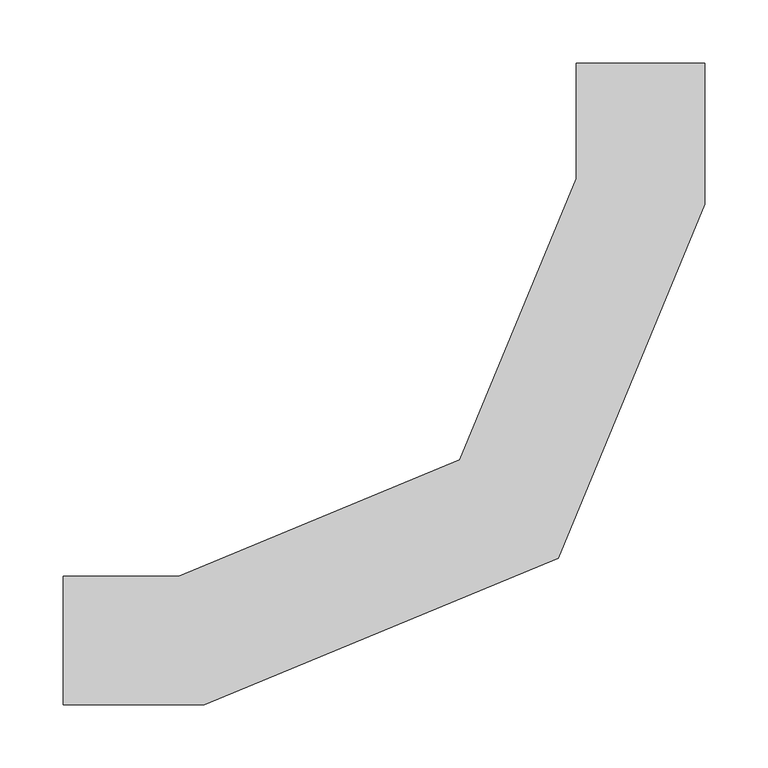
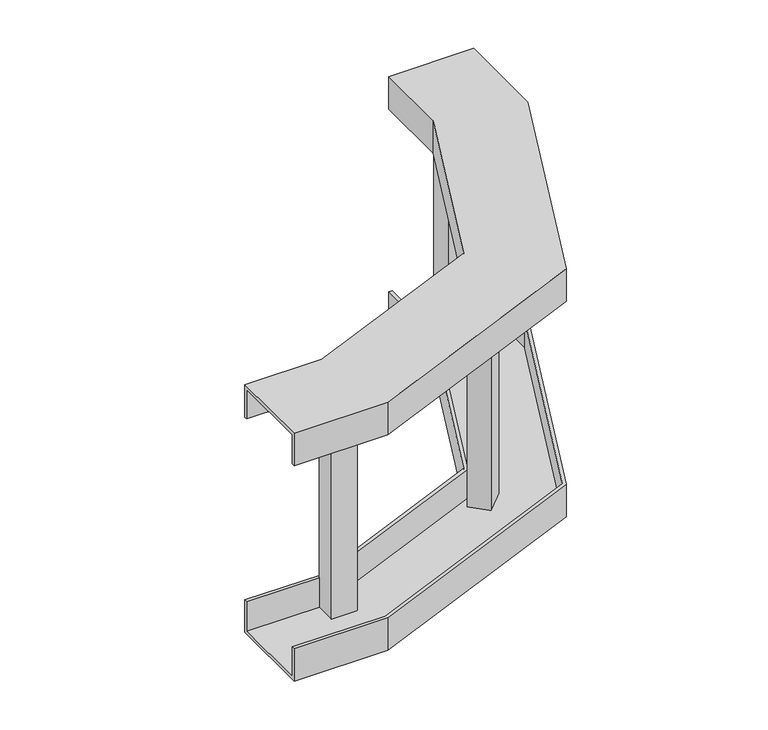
"""IFC4 building model written with IfcOpenShell, lengths in millimetres: cable carrier fitting geometry, CXEFV_Vertical_Outside_Bend-Fibertrav : Fibertrav CXEFV-12."""

import ifcopenshell
import ifcopenshell.guid

model = None  # the IFC model being written
_history = None  # IfcOwnerHistory: only IFC2X3 demands one
_inside = {}  # id of a spatial element -> (the spatial element, [elements in it])
_under = {}  # id of a project, library or spatial element -> (it, [spatial elements below it])
_declared = {}  # id of a project -> (the project, [libraries it declares])
_typed = {}  # id of a type object -> (the type object, [elements of that type])
_made_of = {}  # id of a material, layer set ... -> (it, [elements and type objects made of it])


def new_model(schema):
    """Start an empty IFC model of exactly this schema.

    Asked for "IFC4X3", IfcOpenShell would pick the latest addendum, in which some entities
    have other attributes; the version numbers below select the first issue.
    IFC2X3 requires an IfcOwnerHistory on every rooted entity: one is made here for all.
    """
    global model, _history
    if schema == "IFC4X3":
        model = ifcopenshell.file(schema_version=(4, 3, 0, 0))
    else:
        model = ifcopenshell.file(schema=schema)
    _inside.clear()
    _under.clear()
    _declared.clear()
    _typed.clear()
    _made_of.clear()
    _history = None
    if model.schema == "IFC2X3":
        org = make("IfcOrganization", Name="unknown")
        user = make(
            "IfcPersonAndOrganization",
            ThePerson=make("IfcPerson", FamilyName="unknown"),
            TheOrganization=org,
        )
        app = make(
            "IfcApplication",
            ApplicationDeveloper=org,
            Version="unknown",
            ApplicationFullName="unknown",
            ApplicationIdentifier="unknown",
        )
        _history = make(
            "IfcOwnerHistory",
            OwningUser=user,
            OwningApplication=app,
            ChangeAction="ADDED",
            CreationDate=0,
        )
    return model


def make(cls, **values):
    """One entity of the class cls with the attributes given. An attribute that is None is left unset."""
    return model.create_entity(
        cls, **{name: value for name, value in values.items() if value is not None}
    )


def rooted(cls, **values):
    """An entity with a GlobalId (a new one), such as an element, a storey or a relation."""
    return make(cls, GlobalId=ifcopenshell.guid.new(), OwnerHistory=_history, **values)


def si_unit(unit_type, name, prefix=None):
    """IfcSIUnit, for example si_unit("LENGTHUNIT", "METRE", prefix="MILLI")."""
    return make("IfcSIUnit", UnitType=unit_type, Prefix=prefix, Name=name)


def assignment(units):
    """IfcUnitAssignment: the units of a project."""
    return None if units is None else make("IfcUnitAssignment", Units=units)


def point(xyz):
    """IfcCartesianPoint."""
    return None if xyz is None else make("IfcCartesianPoint", Coordinates=xyz)


def direction(xyz):
    """IfcDirection."""
    return None if xyz is None else make("IfcDirection", DirectionRatios=xyz)


def frame(location, z_axis=None, x_axis=None):
    """IfcAxis2Placement3D, a coordinate frame: its origin and axes. An axis left out is left unset."""
    return make(
        "IfcAxis2Placement3D",
        Location=point(location),
        Axis=direction(z_axis),
        RefDirection=direction(x_axis),
    )


def origin():
    """The frame at (0, 0, 0) with its axes left unset."""
    return frame((0.0, 0.0, 0.0))


def place(relative_to, where):
    """IfcLocalPlacement: puts the frame where relative to a parent placement (None: the world)."""
    return make(
        "IfcLocalPlacement", PlacementRelTo=relative_to, RelativePlacement=where
    )


def context(
    kind, dimensions, precision=None, world=None, true_north=None, identifier=None
):
    """IfcGeometricRepresentationContext, for example the 3D "Model" context."""
    return make(
        "IfcGeometricRepresentationContext",
        ContextIdentifier=identifier,
        ContextType=kind,
        CoordinateSpaceDimension=dimensions,
        Precision=precision,
        WorldCoordinateSystem=world,
        TrueNorth=true_north,
    )


def project(units=None, contexts=None):
    """IfcProject with its units and contexts."""
    return rooted(
        "IfcProject",
        Name="project",
        RepresentationContexts=contexts,
        UnitsInContext=assignment(units),
    )


def spatial(cls, under=None, at=None, **own):
    """A site, building, storey or space (cls), placed at a placement, below another one or the project."""
    s = rooted(cls, ObjectPlacement=at, **own)
    if under is not None:
        _under.setdefault(under.id(), (under, []))[1].append(s)
    return s


def polyline(points):
    """IfcPolyline through the points."""
    return make("IfcPolyline", Points=[point(p) for p in points])


def outline(outer, holes=None, kind="AREA"):
    """IfcArbitraryClosedProfileDef: a profile drawn as a closed curve; with holes, ...WithVoids."""
    if holes is None:
        return make("IfcArbitraryClosedProfileDef", ProfileType=kind, OuterCurve=outer)
    return make(
        "IfcArbitraryProfileDefWithVoids",
        ProfileType=kind,
        OuterCurve=outer,
        InnerCurves=holes,
    )


def extrude(swept, where, along, depth):
    """IfcExtrudedAreaSolid: the profile swept, set in the frame where, extruded along a direction by depth."""
    return make(
        "IfcExtrudedAreaSolid",
        SweptArea=swept,
        Position=where,
        ExtrudedDirection=direction(along),
        Depth=depth,
    )


def faces_of(points, faces, orient=None, outer=None):
    """IfcFace entities. A face is a list of loops; a loop is a list of indices into points, from 0.

    orient and outer hold one flag for each loop. By default every Orientation is true, the
    first loop of a face is its IfcFaceOuterBound and the others are IfcFaceBound.
    """
    made = []
    for i, loops in enumerate(faces):
        bounds = []
        for j, loop in enumerate(loops):
            is_outer = j == 0 if outer is None else outer[i][j]
            bounds.append(
                make(
                    "IfcFaceOuterBound" if is_outer else "IfcFaceBound",
                    Bound=make("IfcPolyLoop", Polygon=[points[k] for k in loop]),
                    Orientation=True if orient is None else orient[i][j],
                )
            )
        made.append(make("IfcFace", Bounds=bounds))
    return made


def faceted_brep(points, faces, orient=None, outer=None, voids=None):
    """IfcFacetedBrep: a solid bounded by flat faces; with voids (closed shells), ...WithVoids."""
    shared = [point(p) for p in points]
    hull = make("IfcClosedShell", CfsFaces=faces_of(shared, faces, orient, outer))
    if voids is None:
        return make("IfcFacetedBrep", Outer=hull)
    return make(
        "IfcFacetedBrepWithVoids",
        Outer=hull,
        Voids=[
            make(cls, CfsFaces=faces_of(shared, fs, o, b)) for cls, fs, o, b in voids
        ],
    )


def shape(context_of_items, identifier, shape_type, items):
    """IfcShapeRepresentation: the items that make up one representation, for example the "Body"."""
    return make(
        "IfcShapeRepresentation",
        ContextOfItems=context_of_items,
        RepresentationIdentifier=identifier,
        RepresentationType=shape_type,
        Items=items,
    )


def source(mapping_origin, context_of_items, identifier, shape_type, items):
    """IfcRepresentationMap: a shape defined once, which mapped items show again and again."""
    return make(
        "IfcRepresentationMap",
        MappingOrigin=mapping_origin,
        MappedRepresentation=shape(context_of_items, identifier, shape_type, items),
    )


def transform(
    local_origin,
    x_axis=None,
    y_axis=None,
    z_axis=None,
    scale=None,
    scale2=None,
    scale3=None,
    uniform=True,
):
    """IfcCartesianTransformationOperator3D, or its non-uniform kind. x_axis, y_axis, z_axis: its Axis1, 2, 3."""
    if uniform:
        return make(
            "IfcCartesianTransformationOperator3D",
            Axis1=direction(x_axis),
            Axis2=direction(y_axis),
            LocalOrigin=point(local_origin),
            Scale=scale,
            Axis3=direction(z_axis),
        )
    return make(
        "IfcCartesianTransformationOperator3DnonUniform",
        Axis1=direction(x_axis),
        Axis2=direction(y_axis),
        LocalOrigin=point(local_origin),
        Scale=scale,
        Axis3=direction(z_axis),
        Scale2=scale2,
        Scale3=scale3,
    )


def mapped(mapping_source, mapping_target):
    """IfcMappedItem: shows the shape of a source again, moved by a transform."""
    return make(
        "IfcMappedItem", MappingSource=mapping_source, MappingTarget=mapping_target
    )


def made_of(thing, what):
    """Note that an element or type object is made of a material, layer set ...; save() writes the relation."""
    if what is not None:
        _made_of.setdefault(what.id(), (what, []))[1].append(thing)
    return thing


def element(
    cls,
    number,
    at=None,
    inside=None,
    cuts=None,
    type_object=None,
    material=None,
    context=None,
    identifier="Body",
    shape_type=None,
    held_by="IfcProductDefinitionShape",
    body=None,
    shapes=None,
    **own,
):
    """One element of the class cls, such as IfcWall. Its Tag is "e" and its number.

    at: its placement. inside: the storey or other place that contains it. cuts: it is an
    opening in that element (IfcRelVoidsElement). A single representation is given by context,
    identifier, shape_type and body (its items); several are given by shapes. held_by: the class
    of the entity that holds the representations. save() writes the other relations.
    """
    e = rooted(cls, Tag="e%d" % number, ObjectPlacement=at, **own)
    if body is not None:
        shapes = [shape(context, identifier, shape_type, body)]
    if shapes is not None:
        e.Representation = make(held_by, Representations=shapes)
    if inside is not None:
        _inside.setdefault(inside.id(), (inside, []))[1].append(e)
    if cuts is not None:
        rooted(
            "IfcRelVoidsElement", RelatingBuildingElement=cuts, RelatedOpeningElement=e
        )
    if type_object is not None:
        _typed.setdefault(type_object.id(), (type_object, []))[1].append(e)
    return made_of(e, material)


def aggregate(whole, parts):
    """IfcRelAggregates: a whole, such as a stair, and the parts it consists of."""
    return rooted("IfcRelAggregates", RelatingObject=whole, RelatedObjects=parts)


def save(model, path):
    """Write the relations noted so far, then the file.

    IfcRelAggregates (storeys below a building ...), IfcRelContainedInSpatialStructure (elements
    in a storey), IfcRelDefinesByType, IfcRelAssociatesMaterial and IfcRelDeclares: one each for
    every whole, place, type object, material and project.
    """
    for whole, parts in _under.values():
        aggregate(whole, parts)
    for where, things in _inside.values():
        rooted(
            "IfcRelContainedInSpatialStructure",
            RelatedElements=things,
            RelatingStructure=where,
        )
    for kind, things in _typed.values():
        rooted("IfcRelDefinesByType", RelatedObjects=things, RelatingType=kind)
    for what, things in _made_of.values():
        rooted("IfcRelAssociatesMaterial", RelatedObjects=things, RelatingMaterial=what)
    for by, libraries in _declared.values():
        rooted("IfcRelDeclares", RelatingContext=by, RelatedDefinitions=libraries)
    model.write(path)


def cable_carrier_fitting_1d535282(model_context):
    return source(origin(), model_context, "Body", "SolidModel", [
        faceted_brep([(-457.2, 50.8, 156.4), (-457.2, 50.8, 115.4), (-457.2, 46.8, 115.4), (-457.2, 46.8, 152.4), (-457.2, -46.8, 152.4), (-457.2, -46.8, 115.4), (-457.2, -50.8, 115.4), (-457.2, -50.8, 156.4), (-50.8, 457.2, 156.4), (50.8, 457.2, 156.4), (50.8, 457.2, 115.4), (46.8, 457.2, 115.4), (46.8, 457.2, 152.4), (-46.8, 457.2, 152.4), (-46.8, 457.2, 115.4), (-50.8, 457.2, 115.4), (-345.4952517, -50.8, 156.4), (-65.2721919, 65.2721919, 156.4), (50.8, 345.4952517, 156.4), (-50.8, 365.7047483, 156.4), (-143.0334653, 143.0334653, 156.4), (-365.7047483, 50.8, 156.4), (-365.7047483, 50.8, 115.4), (-143.0334653, 143.0334653, 115.4), (-50.8, 365.7047483, 115.4), (-46.8, 364.9090988, 115.4), (-139.9719979, 139.9719979, 115.4), (-364.9090988, 46.8, 115.4), (-364.9090988, 46.8, 152.4), (-139.9719979, 139.9719979, 152.4), (-46.8, 364.9090988, 152.4), (46.8, 346.2909012, 152.4), (-68.3336593, 68.3336593, 152.4), (-346.2909012, -46.8, 152.4), (-346.2909012, -46.8, 115.4), (-68.3336593, 68.3336593, 115.4), (46.8, 346.2909012, 115.4), (50.8, 345.4952517, 115.4), (-65.2721919, 65.2721919, 115.4), (-345.4952517, -50.8, 115.4)], [[[0, 1, 2, 3, 4, 5, 6, 7]], [[8, 9, 10, 11, 12, 13, 14, 15]], [[0, 7, 16, 17, 18, 9, 8, 19, 20, 21]], [[1, 0, 21, 22]], [[2, 1, 22, 23, 24, 15, 14, 25, 26, 27]], [[3, 2, 27, 28]], [[4, 3, 28, 29, 30, 13, 12, 31, 32, 33]], [[5, 4, 33, 34]], [[6, 5, 34, 35, 36, 11, 10, 37, 38, 39]], [[7, 6, 39, 16]], [[24, 19, 8, 15]], [[30, 25, 14, 13]], [[36, 31, 12, 11]], [[18, 37, 10, 9]], [[22, 21, 20, 23]], [[28, 27, 26, 29]], [[34, 33, 32, 35]], [[16, 39, 38, 17]], [[23, 20, 19, 24]], [[29, 26, 25, 30]], [[35, 32, 31, 36]], [[17, 38, 37, 18]]]),
        faceted_brep([(-457.2, 50.8, -156.4), (-457.2, -50.8, -156.4), (-457.2, -50.8, -115.4), (-457.2, -46.8, -115.4), (-457.2, -46.8, -152.4), (-457.2, 46.8, -152.4), (-457.2, 46.8, -115.4), (-457.2, 50.8, -115.4), (-50.8, 457.2, -156.4), (-50.8, 457.2, -115.4), (-46.8, 457.2, -115.4), (-46.8, 457.2, -152.4), (46.8, 457.2, -152.4), (46.8, 457.2, -115.4), (50.8, 457.2, -115.4), (50.8, 457.2, -156.4), (-345.4952517, -50.8, -156.4), (-345.4952517, -50.8, -115.4), (-65.2721919, 65.2721919, -115.4), (50.8, 345.4952517, -115.4), (46.8, 346.2909012, -115.4), (-68.3336593, 68.3336593, -115.4), (-346.2909012, -46.8, -115.4), (-346.2909012, -46.8, -152.4), (-68.3336593, 68.3336593, -152.4), (46.8, 346.2909012, -152.4), (-46.8, 364.9090988, -152.4), (-139.9719979, 139.9719979, -152.4), (-364.9090988, 46.8, -152.4), (-364.9090988, 46.8, -115.4), (-139.9719979, 139.9719979, -115.4), (-46.8, 364.9090988, -115.4), (-50.8, 365.7047483, -115.4), (-143.0334653, 143.0334653, -115.4), (-365.7047483, 50.8, -115.4), (-365.7047483, 50.8, -156.4), (-143.0334653, 143.0334653, -156.4), (-50.8, 365.7047483, -156.4), (50.8, 345.4952517, -156.4), (-65.2721919, 65.2721919, -156.4)], [[[0, 1, 2, 3, 4, 5, 6, 7]], [[8, 9, 10, 11, 12, 13, 14, 15]], [[2, 1, 16, 17]], [[3, 2, 17, 18, 19, 14, 13, 20, 21, 22]], [[4, 3, 22, 23]], [[5, 4, 23, 24, 25, 12, 11, 26, 27, 28]], [[6, 5, 28, 29]], [[7, 6, 29, 30, 31, 10, 9, 32, 33, 34]], [[0, 7, 34, 35]], [[1, 0, 35, 36, 37, 8, 15, 38, 39, 16]], [[19, 38, 15, 14]], [[25, 20, 13, 12]], [[31, 26, 11, 10]], [[37, 32, 9, 8]], [[17, 16, 39, 18]], [[23, 22, 21, 24]], [[29, 28, 27, 30]], [[35, 34, 33, 36]], [[18, 39, 38, 19]], [[24, 21, 20, 25]], [[30, 27, 26, 31]], [[36, 33, 32, 37]]]),
        extrude(outline(polyline([(-46.8, 370.85), (-21.4, 370.85), (-21.4, 340.35), (-46.8, 340.35), (-46.8, 370.85)])), frame((0.0, 0.0, -152.4), z_axis=(0.0, 0.0, 1.0), x_axis=(1.0, 0.0, 0.0)), (0.0, 0.0, 1.0), 304.8),
        extrude(outline(polyline([(-126.4620476, 148.0288044), (-108.5015353, 130.0682921), (-130.0682921, 108.5015353), (-148.0288044, 126.4620476), (-126.4620476, 148.0288044)])), frame((0.0, 0.0, -152.4), z_axis=(0.0, 0.0, 1.0), x_axis=(1.0, 0.0, 0.0)), (0.0, 0.0, 1.0), 304.8),
        extrude(outline(polyline([(-370.85, 21.4), (-370.85, 46.8), (-340.35, 46.8), (-340.35, 21.4), (-370.85, 21.4)])), frame((0.0, 0.0, -152.4), z_axis=(0.0, 0.0, 1.0), x_axis=(1.0, 0.0, 0.0)), (0.0, 0.0, 1.0), 304.8),
    ])


if __name__ == "__main__":
    model = new_model("IFC4")
    model_context = context("Model", 3, world=origin())
    ifc_project = project(units=[si_unit("LENGTHUNIT", "METRE", prefix="MILLI")], contexts=[model_context])
    site = spatial("IfcSite", under=ifc_project)
    building = spatial("IfcBuilding", under=site)
    placement = place(None, origin())
    cable_carrier_fitting_shape = cable_carrier_fitting_1d535282(model_context)
    element("IfcCableCarrierFitting", 1, ObjectType="CXEFV_Vertical_Outside_Bend-Fibertrav : Fibertrav CXEFV-12", at=placement, inside=building, context=model_context, shape_type="MappedRepresentation", body=[
        mapped(cable_carrier_fitting_shape, transform((0.0, 0.0, 0.0), x_axis=(1.0, 0.0, 0.0), y_axis=(0.0, 1.0, 0.0), z_axis=(0.0, 0.0, 1.0))),
    ])
    save(model, "model.ifc")
